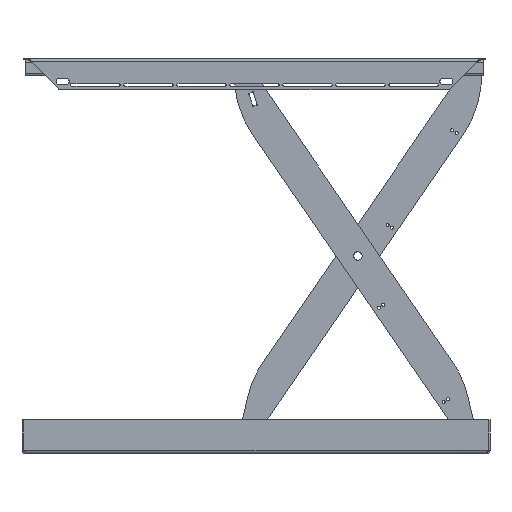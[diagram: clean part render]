
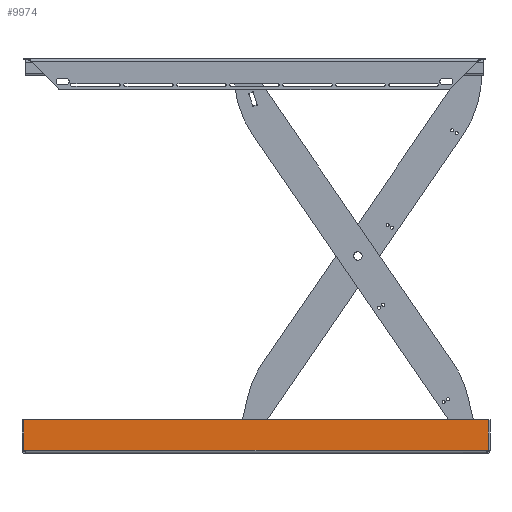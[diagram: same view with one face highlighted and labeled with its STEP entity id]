
A CAD part, front view. The second image highlights one B-rep face of the part: STEP entity #9974.
In plain terms, the highlighted planar face has unit normal (0, -1, 0) as drawn and (0, 0, -1) by its records, which use the part's own axes.
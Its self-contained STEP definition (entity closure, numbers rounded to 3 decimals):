
#689=PLANE('',#10951);
#1169=FACE_OUTER_BOUND('',#1856,.T.);
#1856=EDGE_LOOP('',(#8603,#8604,#8605,#8606,#8607,#8608));
#2815=LINE('',#16677,#3801);
#2816=LINE('',#16681,#3802);
#2817=LINE('',#16683,#3803);
#2818=LINE('',#16684,#3804);
#3801=VECTOR('',#13373,10.);
#3802=VECTOR('',#13376,10.);
#3803=VECTOR('',#13377,10.);
#3804=VECTOR('',#13378,10.);
#4264=CIRCLE('',#10949,4.);
#4266=CIRCLE('',#10952,4.);
#5079=VERTEX_POINT('',#16668);
#5080=VERTEX_POINT('',#16670);
#5082=VERTEX_POINT('',#16676);
#5083=VERTEX_POINT('',#16678);
#5084=VERTEX_POINT('',#16680);
#5085=VERTEX_POINT('',#16682);
#6336=EDGE_CURVE('',#5080,#5079,#4264,.T.);
#6339=EDGE_CURVE('',#5079,#5082,#2815,.T.);
#6340=EDGE_CURVE('',#5082,#5083,#4266,.T.);
#6341=EDGE_CURVE('',#5084,#5083,#2816,.T.);
#6342=EDGE_CURVE('',#5085,#5084,#2817,.T.);
#6343=EDGE_CURVE('',#5080,#5085,#2818,.T.);
#8603=ORIENTED_EDGE('',*,*,#6339,.T.);
#8604=ORIENTED_EDGE('',*,*,#6340,.T.);
#8605=ORIENTED_EDGE('',*,*,#6341,.F.);
#8606=ORIENTED_EDGE('',*,*,#6342,.F.);
#8607=ORIENTED_EDGE('',*,*,#6343,.F.);
#8608=ORIENTED_EDGE('',*,*,#6336,.T.);
#9974=ADVANCED_FACE('',(#1169),#689,.F.);
#10949=AXIS2_PLACEMENT_3D('',#16671,#13366,#13367);
#10951=AXIS2_PLACEMENT_3D('',#16675,#13371,#13372);
#10952=AXIS2_PLACEMENT_3D('',#16679,#13374,#13375);
#13366=DIRECTION('center_axis',(0.,0.,
1.));
#13367=DIRECTION('ref_axis',(-1.,0.,0.));
#13371=DIRECTION('center_axis',(0.,0.,
1.));
#13372=DIRECTION('ref_axis',(0.,-1.,0.));
#13373=DIRECTION('',(-1.,0.,0.));
#13374=DIRECTION('center_axis',(0.,0.,
1.));
#13375=DIRECTION('ref_axis',(-1.,0.,0.));
#13376=DIRECTION('',(0.,-1.,0.));
#13377=DIRECTION('',(-1.,0.,0.));
#13378=DIRECTION('',(0.,1.,0.));
#16668=CARTESIAN_POINT('',(444.77,6.,-300.));
#16670=CARTESIAN_POINT('',(446.646,6.411,-300.));
#16671=CARTESIAN_POINT('Origin',(446.538,2.412,-300.));
#16675=CARTESIAN_POINT('Origin',(0.,32.514,-300.));
#16676=CARTESIAN_POINT('',(-444.77,6.,-300.));
#16677=CARTESIAN_POINT('',(0.,6.,-300.));
#16678=CARTESIAN_POINT('',(-446.646,6.411,-300.));
#16679=CARTESIAN_POINT('Origin',(-446.538,2.412,-300.));
#16680=CARTESIAN_POINT('',(-446.646,65.,-300.));
#16681=CARTESIAN_POINT('',(-446.646,6.,-300.));
#16682=CARTESIAN_POINT('',(446.646,65.,-300.));
#16683=CARTESIAN_POINT('',(446.646,65.,-300.));
#16684=CARTESIAN_POINT('',(446.646,6.,-300.));
